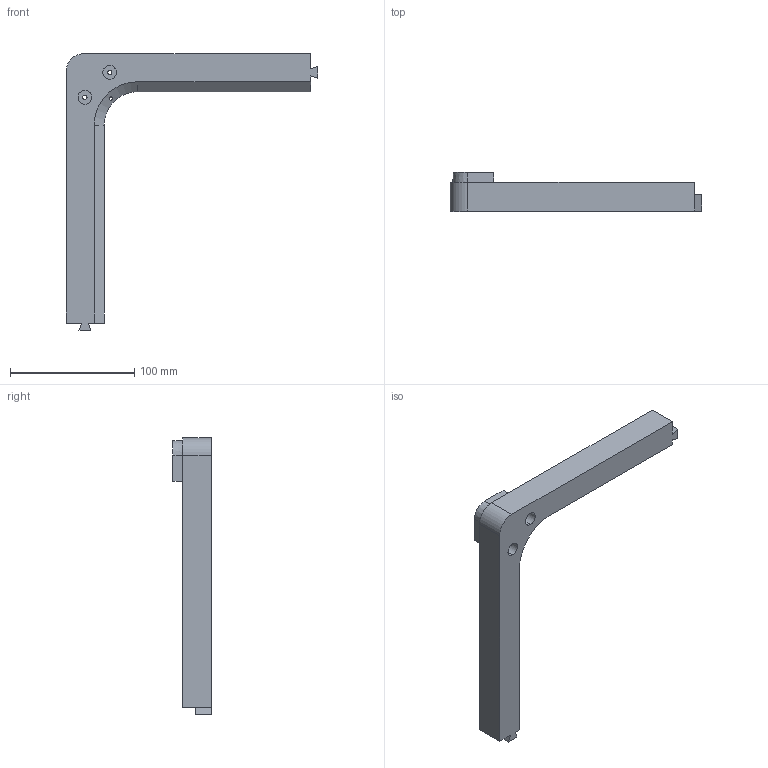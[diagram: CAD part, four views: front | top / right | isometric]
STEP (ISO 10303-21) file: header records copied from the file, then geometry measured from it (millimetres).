
FILE_DESCRIPTION (( 'STEP AP203' ), '1' );
FILE_NAME ('階翐B.STEP', '2026-06-27T08:46:14', ( '' ), ( '' ), 'SwSTEP 2.0', 'SolidWorks 2024', '' );
FILE_SCHEMA (( 'CONFIG_CONTROL_DESIGN' ));
Length unit declared in the file: millimetre
Products named in the file (2): 顶柱B
Assembly tree (1 placements, depth 2):
  顶柱B
    顶柱B
Bounding box: 202.3 x 31 x 222.3 mm (x, y, z)
Volume: 150142.8 mm3; surface area: 51987.1 mm2
Topology: 1 solids, 1 shells, 109 faces, 290 edges, 192 vertices
Faces by surface type: plane 64, cylinder 30, bspline 12, cone 3
Entity records: 4324 total; most frequent: CARTESIAN_POINT 1409, ORIENTED_EDGE 580, DIRECTION 528, EDGE_CURVE 290, VECTOR 202, LINE 202, VERTEX_POINT 192, AXIS2_PLACEMENT_3D 163
